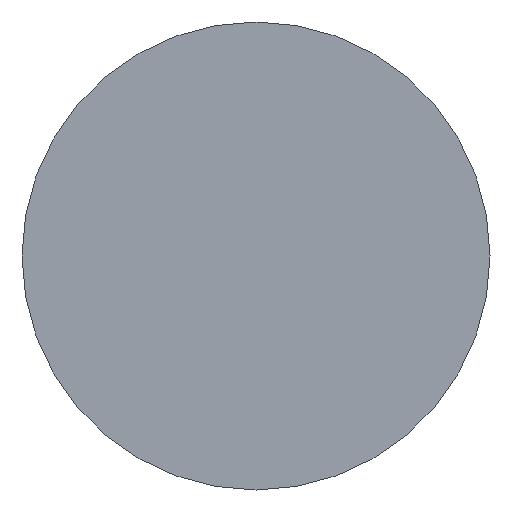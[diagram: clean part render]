
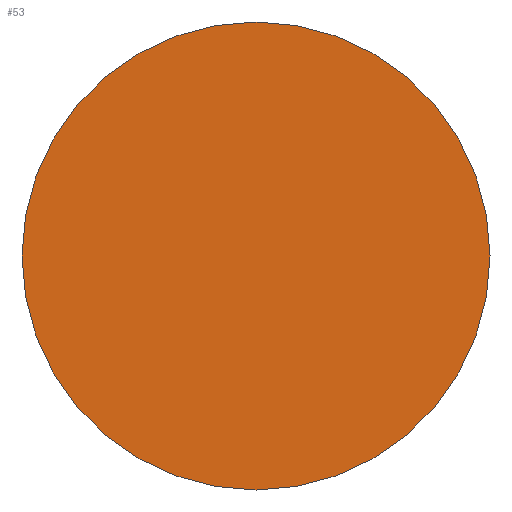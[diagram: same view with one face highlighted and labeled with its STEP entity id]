
A CAD part, front view. The second image highlights one B-rep face of the part: STEP entity #53.
In plain terms, the highlighted planar face has unit normal (0, -1, 0).
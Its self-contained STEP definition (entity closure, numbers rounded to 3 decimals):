
#53=ADVANCED_FACE('',(#56),#58,.T.);
#56=FACE_BOUND('',#57,.T.);
#57=EDGE_LOOP('',(#79));
#58=PLANE('',#59);
#59=AXIS2_PLACEMENT_3D('',#60,#61,#62);
#60=CARTESIAN_POINT('',(0.,-19.,0.));
#61=DIRECTION('',(0.,-1.,0.));
#62=DIRECTION('',(1.,0.,0.));
#79=ORIENTED_EDGE('',*,*,#83,.T.);
#83=EDGE_CURVE('',#85,#85,#86,.F.);
#85=VERTEX_POINT('',#89);
#86=CIRCLE('',#90,10.);
#89=CARTESIAN_POINT('',(117.5,-19.,8.));
#90=AXIS2_PLACEMENT_3D('',#91,#92,#93);
#91=CARTESIAN_POINT('',(107.5,-19.,8.));
#92=DIRECTION('',(0.,1.,0.));
#93=DIRECTION('',(1.,0.,0.));
